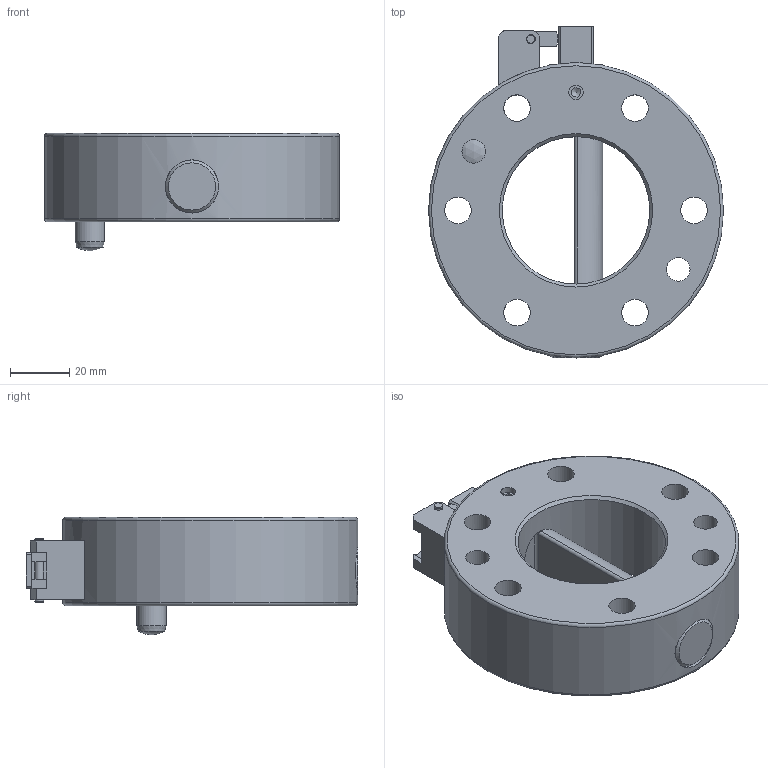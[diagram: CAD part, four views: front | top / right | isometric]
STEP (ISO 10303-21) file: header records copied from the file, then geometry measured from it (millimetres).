
FILE_DESCRIPTION((''),'2;1');
FILE_NAME('T:\CAD\Standard\Daten\3D-Datenbank\SWS\SWS100\step-Daten\G-SWS100-2O-VS2.stp','2011-08-19T13:47:24',('Yvonne'),(''),'Autodesk Inventor 2011','Autodesk Inventor 2011','');
FILE_SCHEMA(('AUTOMOTIVE_DESIGN { 1 0 10303 214 1 1 1 1 }'));
Length unit declared in the file: millimetre
Products named in the file (1): Bauteil12
Bounding box: 100 x 112.5 x 39.75 mm (x, y, z)
Volume: 168387.2 mm3; surface area: 38165.1 mm2
Topology: 1 solids, 1 shells, 166 faces, 404 edges, 260 vertices
Faces by surface type: plane 78, cylinder 61, cone 13, torus 8, bspline 4, sphere 2
Full cylindrical faces by diameter (mm): 2.459 x1, 3 x7, 3.4 x2, 4 x1, 4.917 x3, 5.5 x2, 6.5 x2, 8 x2, 9 x6, 10 x1, 15 x6, 18 x1, 50 x1, 100 x1
Entity records: 5143 total; most frequent: CARTESIAN_POINT 1397, DIRECTION 720, ORIENTED_EDGE 650, EDGE_CURVE 325, AXIS2_PLACEMENT_3D 289, EDGE_LOOP 268, VERTEX_POINT 237, STYLED_ITEM 167
